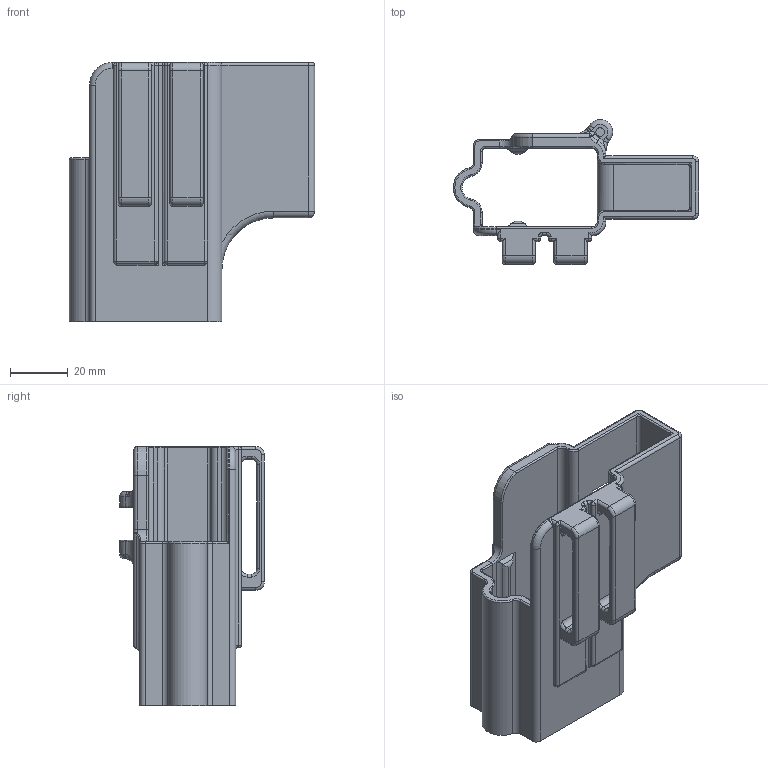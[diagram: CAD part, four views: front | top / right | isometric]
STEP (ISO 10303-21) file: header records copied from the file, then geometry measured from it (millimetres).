
FILE_DESCRIPTION(/* description */ (''),/* implementation_level */ '2;1');
FILE_NAME(/* name */ 'C:/Users/lilys/OneDrive/Desktop/3d printable/G43x/AWCY_43XHOLSTER_FINAL v1.step',/* time_stamp */ '2020-08-17T23:35:52-07:00',/* author */ (''),/* organization */ (''),/* preprocessor_version */ 'ST-DEVELOPER v18.1',/* originating_system */ 'Autodesk Translation Framework v9.3.0.1241',/* authorisation */ '');
FILE_SCHEMA (('AUTOMOTIVE_DESIGN { 1 0 10303 214 3 1 1 }'));
Length unit declared in the file: millimetre
Products named in the file (1): AWCY_43XHOLSTER_FINAL
Bounding box: 85.2 x 50.34 x 90 mm (x, y, z)
Volume: 62972.8 mm3; surface area: 36644.5 mm2
Topology: 1 solids, 1 shells, 771 faces, 2145 edges, 1368 vertices
Faces by surface type: bspline 453, cylinder 149, plane 92, torus 70, sphere 7
Full cylindrical faces by diameter (mm): 3 x2, 9.5 x1
Entity records: 26711 total; most frequent: CARTESIAN_POINT 11109, ORIENTED_EDGE 4268, DIRECTION 2266, EDGE_CURVE 2134, VERTEX_POINT 1368, LINE 828, VECTOR 828, EDGE_LOOP 784
